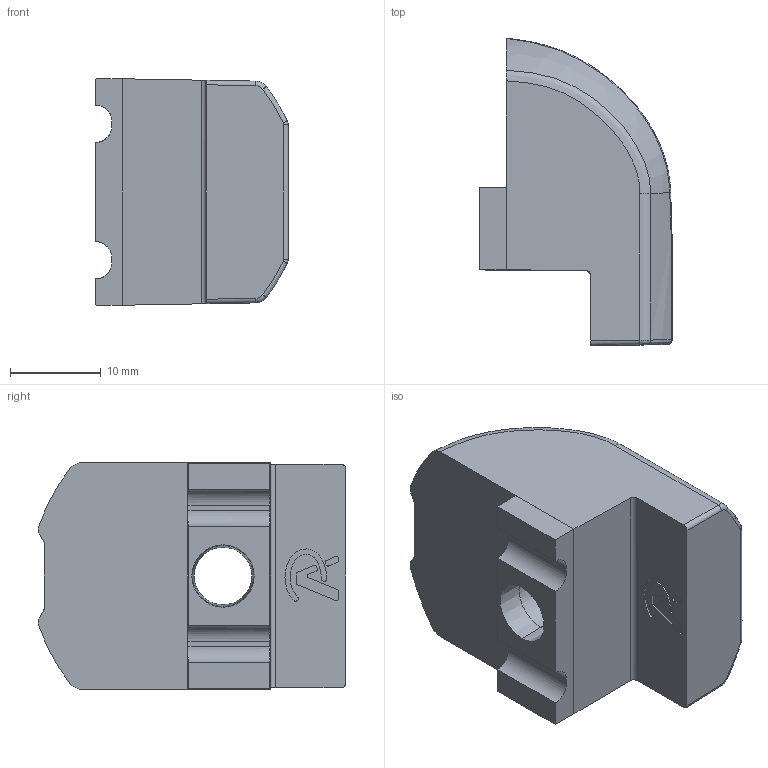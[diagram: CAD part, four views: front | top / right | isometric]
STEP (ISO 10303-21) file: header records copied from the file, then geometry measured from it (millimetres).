
FILE_DESCRIPTION (( 'STEP AP214' ), '1' );
FILE_NAME ('013.100.068.STEP', '2023-01-13T13:55:13', ( '' ), ( '' ), 'SwSTEP 2.0', 'SolidWorks 2021', '' );
FILE_SCHEMA (( 'AUTOMOTIVE_DESIGN' ));
Length unit declared in the file: millimetre
Products named in the file (1): 013.100.068
Bounding box: 21.16 x 33.82 x 24.9 mm (x, y, z)
Volume: 10057.3 mm3; surface area: 4051 mm2
Topology: 2 solids, 2 shells, 102 faces, 266 edges, 172 vertices
Faces by surface type: plane 42, bspline 30, cylinder 26, cone 4
Entity records: 5581 total; most frequent: CARTESIAN_POINT 3262, ORIENTED_EDGE 532, DIRECTION 385, EDGE_CURVE 266, VERTEX_POINT 172, LINE 131, VECTOR 131, AXIS2_PLACEMENT_3D 127
